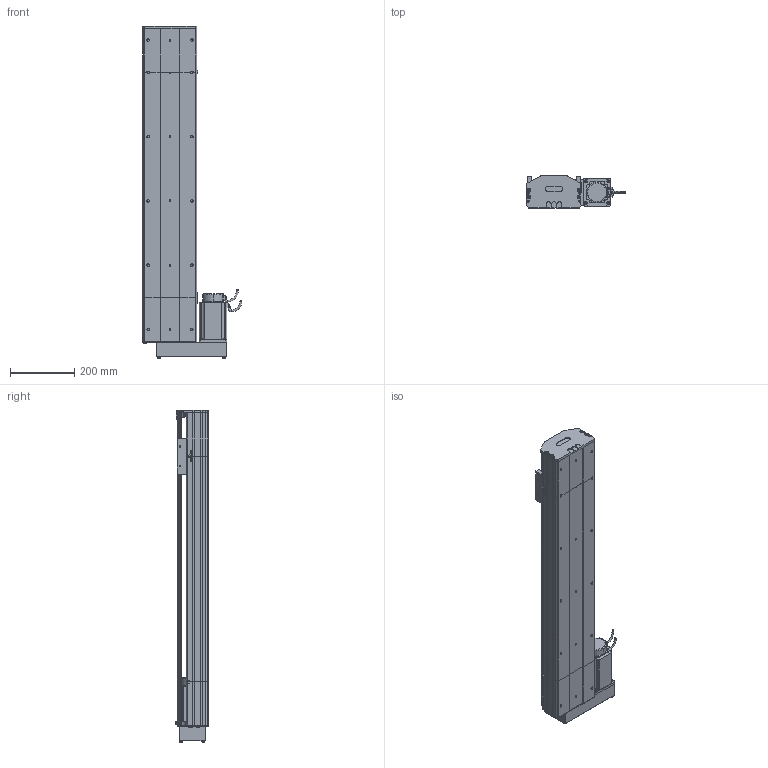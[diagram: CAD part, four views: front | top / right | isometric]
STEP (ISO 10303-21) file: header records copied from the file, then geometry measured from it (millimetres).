
FILE_DESCRIPTION (( 'STEP AP214' ), '1' );
FILE_NAME ('D17 TSN BL S700.STEP', '2010-06-30T07:38:57', ( 'Christophe Gaillard' ), ( 'SGA' ), 'SwSTEP 2.0', 'SolidWorks 2010', '' );
FILE_SCHEMA (( 'AUTOMOTIVE_DESIGN' ));
Length unit declared in the file: millimetre
Products named in the file (33): Moteur motionking 90BLDC125A-640; avant 90BLDC125A-640; guide D17; vis M5 L12_Default; renvoi BL_Default; Vis M5 L16-2_Default; Chariot D17 TBN; chariot D17 TSN; Cvis M5 L70_Default; Conecteur_Default; Conecteur2_Default; codeur 90BLDC125-640; corps 90BLDC125A-640; course 700 D17_Default; D17 TSN BL S700; couvercle D17 course L700_Default; corp D17 700_Default; arbre + rail D17 Course 700 ; plaque de  bout tail D17_Default; corpl tail D17+L100_Default; Tail D17+L100_Default; Arbre+rail tail D17; tete d''axe haut D17; tete d''axe bas D17; vis M5 L25_Default; vis M5 L8 90°_Default; couvercle D17_Default; couvercle D17 head_Default; corpl head D17 BM_Default; head BL_Default; vis M5 L5_Default; Arbre+rail head D17; plaque de  bout BM head D17_Default
Assembly tree (51 placements, depth 4):
  D17 TSN BL S700
    chariot D17 TSN
      guide D17  x2
      Chariot D17 TBN
    course 700 D17_Default
      corp D17 700_Default
      couvercle D17 course L700_Default
      arbre + rail D17 Course 700 
    head BL_Default
      Vis M5 L16-2_Default  x4
      vis M5 L12_Default  x8
      Moteur motionking 90BLDC125A-640
        avant 90BLDC125A-640
        Conecteur2_Default
        corps 90BLDC125A-640
        codeur 90BLDC125-640
        Conecteur_Default
      Arbre+rail head D17
      corpl head D17 BM_Default
      Cvis M5 L70_Default  x2
      vis M5 L5_Default  x2
      renvoi BL_Default
      couvercle D17 head_Default
      plaque de  bout BM head D17_Default
    Tail D17+L100_Default
      plaque de  bout tail D17_Default
      vis M5 L8 90°_Default  x2
      corpl tail D17+L100_Default
      tete d''axe bas D17
      vis M5 L12_Default  x4
      vis M5 L25_Default  x2
      couvercle D17_Default
      tete d''axe haut D17
      Arbre+rail tail D17
Bounding box: 308.95 x 99.7 x 1032.7 mm (x, y, z)
Volume: 7070272.9 mm3; surface area: 1782612.5 mm2
Topology: 75 solids, 75 shells, 2131 faces, 5404 edges, 3494 vertices
Faces by surface type: plane 1326, cylinder 544, bspline 136, torus 65, cone 56, sphere 4
Entity records: 71437 total; most frequent: CARTESIAN_POINT 22581, ORIENTED_EDGE 8716, DIRECTION 8123, EDGE_CURVE 4358, LINE 3039, VECTOR 3039, VERTEX_POINT 2860, AXIS2_PLACEMENT_3D 2542
